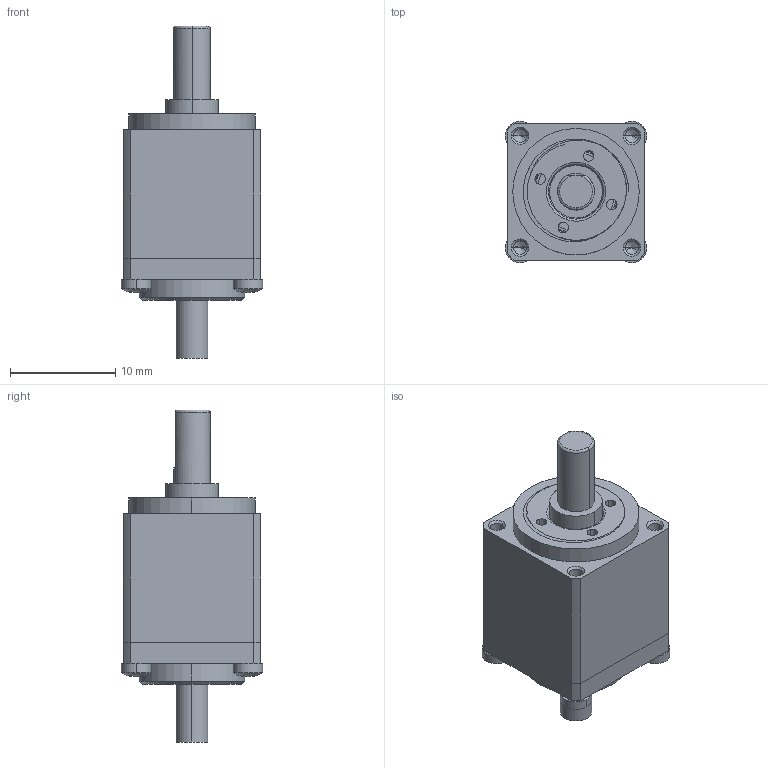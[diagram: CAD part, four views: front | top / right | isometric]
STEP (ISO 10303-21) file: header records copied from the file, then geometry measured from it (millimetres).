
FILE_DESCRIPTION (( 'STEP AP214' ), '1' );
FILE_NAME ('CSF-03-xxx-1U.STEP', '2022-04-09T07:26:11', ( 'PC' ), ( 'Microsoft' ), 'SwSTEP 2.0', 'SolidWorks 2016', '' );
FILE_SCHEMA (( 'AUTOMOTIVE_DESIGN' ));
Length unit declared in the file: millimetre
Products named in the file (15): CSF-03-1U-05_蕼偞; 粣創672 4x2x1.2_蕼偞; CSF-03-1U-02_蕼偞; CSF-03-1U-04_蕼偞; 粣創675Z 8x5x2.5_蕼偞; CSF-03-1U-001_蕼偞; CSF-03-xxx-1U; O型圈6x0.5_預設; ﾊｮﾗﾖｲﾛﾅﾌﾍｷﾂﾝｶ､M1.6｡ﾁ4_M1.6｡ﾁ4; CSF-03-1U  疏楷汜ん_蕼偞; CSF-03-1U-03_蕼偞; 柔性轴承8.18x6.12x1.4x1.3_預設; CSF-03-1U-06_蕼偞; 输入法兰_預設; 旮僱⑩粣創60000]618罕3_618罕3
Assembly tree (18 placements, depth 3):
  CSF-03-xxx-1U
    CSF-03-1U-001_蕼偞
    粣創675Z 8x5x2.5_蕼偞  x2
    CSF-03-1U-04_蕼偞
    CSF-03-1U-02_蕼偞
    粣創672 4x2x1.2_蕼偞
    输入法兰_預設
      CSF-03-1U-05_蕼偞
      旮僱⑩粣創60000]618罕3_618罕3
    CSF-03-1U  疏楷汜ん_蕼偞
      CSF-03-1U-06_蕼偞
      柔性轴承8.18x6.12x1.4x1.3_預設
      CSF-03-1U-03_蕼偞
    ﾊｮﾗﾖｲﾛﾅﾌﾍｷﾂﾝｶ､M1.6｡ﾁ4_M1.6｡ﾁ4  x4
    O型圈6x0.5_預設
Bounding box: 13.41 x 13.41 x 31.5 mm (x, y, z)
Volume: 2466 mm3; surface area: 4484.2 mm2
Topology: 30 solids, 30 shells, 1486 faces, 4024 edges, 2600 vertices
Faces by surface type: bspline 508, cylinder 451, plane 191, cone 162, torus 110, sphere 64
Entity records: 57584 total; most frequent: CARTESIAN_POINT 24799, ORIENTED_EDGE 7188, DIRECTION 4986, EDGE_CURVE 3594, VERTEX_POINT 2358, AXIS2_PLACEMENT_3D 1995, EDGE_LOOP 1448, B_SPLINE_CURVE_WITH_KNOTS 1430
